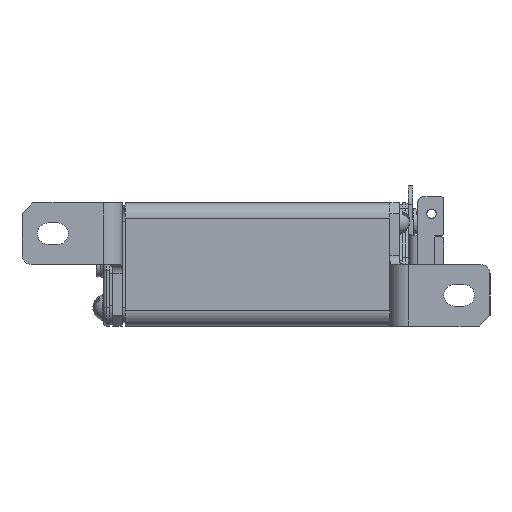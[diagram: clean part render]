
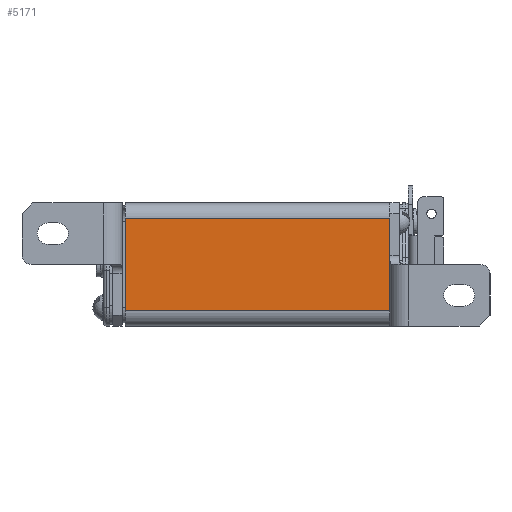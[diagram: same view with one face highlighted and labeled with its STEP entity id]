
A CAD part, front view. The second image highlights one B-rep face of the part: STEP entity #5171.
In plain terms, the highlighted planar face has unit normal (0, -1, 0).
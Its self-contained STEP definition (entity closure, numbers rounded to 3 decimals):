
#215 = CARTESIAN_POINT ( 'NONE',  ( 44.522, -14.467, -15. ) ) ;
#216 = DIRECTION ( 'NONE',  ( 0., 0., 1. ) ) ;
#217 = VECTOR ( 'NONE', #216, 1000. ) ;
#218 = CARTESIAN_POINT ( 'NONE',  ( 44.522, -14.467, -15. ) ) ;
#219 = LINE ( 'NONE', #218, #217 ) ;
#220 = DIRECTION ( 'NONE',  ( 0., 0., -1. ) ) ;
#221 = DIRECTION ( 'NONE',  ( 0., 1., 0. ) ) ;
#222 = CARTESIAN_POINT ( 'NONE',  ( -41.478, -14.467, -15. ) ) ;
#223 = AXIS2_PLACEMENT_3D ( 'NONE', #222, #221, #220 ) ;
#224 = PLANE ( 'NONE',  #223 ) ;
#225 = FACE_OUTER_BOUND ( 'NONE', #5172, .T. ) ;
#226 = DIRECTION ( 'NONE',  ( 0., 0., 1. ) ) ;
#227 = VECTOR ( 'NONE', #226, 1000. ) ;
#228 = CARTESIAN_POINT ( 'NONE',  ( -41.478, -14.467, -15. ) ) ;
#229 = LINE ( 'NONE', #228, #227 ) ;
#230 = CARTESIAN_POINT ( 'NONE',  ( -41.478, -14.467, -15. ) ) ;
#2031 = DIRECTION ( 'NONE',  ( 1., 0., 0. ) ) ;
#2032 = VECTOR ( 'NONE', #2031, 1000. ) ;
#2033 = CARTESIAN_POINT ( 'NONE',  ( -41.478, -14.467, 15. ) ) ;
#2034 = LINE ( 'NONE', #2033, #2032 ) ;
#2035 = CARTESIAN_POINT ( 'NONE',  ( 44.522, -14.467, 15. ) ) ;
#2351 = DIRECTION ( 'NONE',  ( 1., 0., 0. ) ) ;
#2352 = VECTOR ( 'NONE', #2351, 1000. ) ;
#2353 = CARTESIAN_POINT ( 'NONE',  ( -41.478, -14.467, -15. ) ) ;
#2354 = LINE ( 'NONE', #2353, #2352 ) ;
#2735 = CARTESIAN_POINT ( 'NONE',  ( -41.478, -14.467, 15. ) ) ;
#4854 = ORIENTED_EDGE ( 'NONE', *, *, #5170, .F. ) ;
#4855 = ORIENTED_EDGE ( 'NONE', *, *, #4911, .T. ) ;
#4871 = VERTEX_POINT ( 'NONE', #2035 ) ;
#4872 = ORIENTED_EDGE ( 'NONE', *, *, #4873, .F. ) ;
#4873 = EDGE_CURVE ( 'NONE', #5154, #4871, #2034, .T. ) ;
#4911 = EDGE_CURVE ( 'NONE', #5168, #5175, #2354, .T. ) ;
#5154 = VERTEX_POINT ( 'NONE', #2735 ) ;
#5168 = VERTEX_POINT ( 'NONE', #230 ) ;
#5170 = EDGE_CURVE ( 'NONE', #5168, #5154, #229, .T. ) ;
#5171 = ADVANCED_FACE ( 'NONE', ( #225 ), #224, .F. ) ;
#5172 = EDGE_LOOP ( 'NONE', ( #5173, #4872, #4854, #4855 ) ) ;
#5173 = ORIENTED_EDGE ( 'NONE', *, *, #5174, .T. ) ;
#5174 = EDGE_CURVE ( 'NONE', #5175, #4871, #219, .T. ) ;
#5175 = VERTEX_POINT ( 'NONE', #215 ) ;
